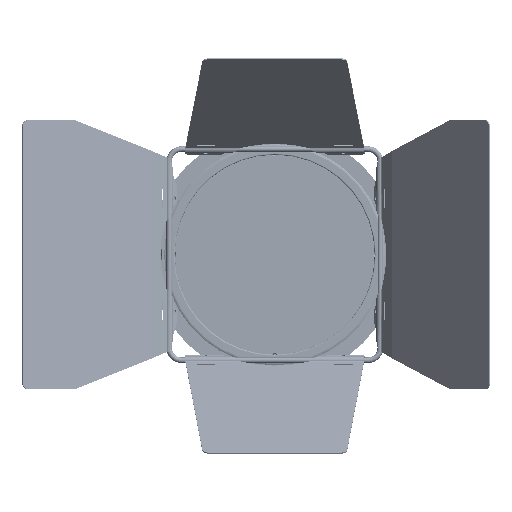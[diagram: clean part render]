
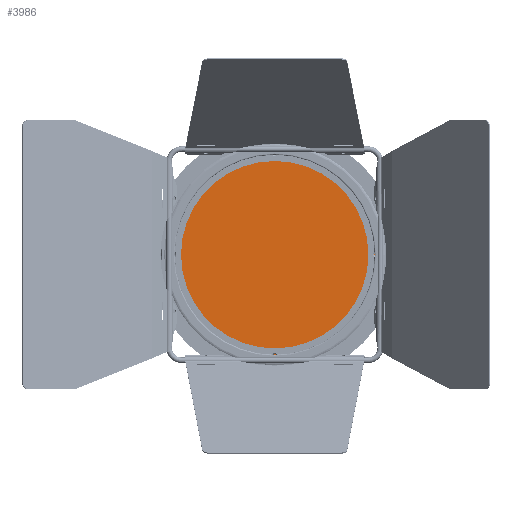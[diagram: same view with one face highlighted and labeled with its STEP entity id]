
A CAD part, front view. The second image highlights one B-rep face of the part: STEP entity #3986.
In plain terms, the highlighted planar face has unit normal (0, -1, 0).
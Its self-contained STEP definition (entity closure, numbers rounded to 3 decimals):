
#1378 = AXIS2_PLACEMENT_3D ( 'NONE', #175053, #143502, #142601 ) ;
#3986 = ADVANCED_FACE ( 'NONE', ( #60114, #89804, #164062, #23809, #178915 ), #162248, .F. ) ;
#4949 = VERTEX_POINT ( 'NONE', #120639 ) ;
#8247 = ORIENTED_EDGE ( 'NONE', *, *, #130365, .T. ) ;
#8302 = CARTESIAN_POINT ( 'NONE',  ( -81.5, -1., -1.6 ) ) ;
#9622 = CARTESIAN_POINT ( 'NONE',  ( -81.5, -1., 0. ) ) ;
#12334 = VERTEX_POINT ( 'NONE', #23528 ) ;
#12420 = EDGE_LOOP ( 'NONE', ( #116804, #32249 ) ) ;
#14918 = CIRCLE ( 'NONE', #118687, 1.6 ) ;
#16247 = CIRCLE ( 'NONE', #120026, 1.6 ) ;
#23528 = CARTESIAN_POINT ( 'NONE',  ( -1.6, -1., 81.5 ) ) ;
#23809 = FACE_BOUND ( 'NONE', #12420, .T. ) ;
#24142 = DIRECTION ( 'NONE',  ( 1., 0., 0. ) ) ;
#25601 = CIRCLE ( 'NONE', #147298, 1.6 ) ;
#25656 = ORIENTED_EDGE ( 'NONE', *, *, #31405, .T. ) ;
#28489 = ORIENTED_EDGE ( 'NONE', *, *, #177882, .T. ) ;
#28784 = CIRCLE ( 'NONE', #108832, 1.6 ) ;
#29921 = CARTESIAN_POINT ( 'NONE',  ( -1.6, -1., -81.5 ) ) ;
#30629 = DIRECTION ( 'NONE',  ( -1., 0., 0. ) ) ;
#31405 = EDGE_CURVE ( 'NONE', #59660, #52414, #90325, .T. ) ;
#32249 = ORIENTED_EDGE ( 'NONE', *, *, #170833, .T. ) ;
#35301 = EDGE_LOOP ( 'NONE', ( #168760, #92288 ) ) ;
#36523 = DIRECTION ( 'NONE',  ( 0., 1., 0. ) ) ;
#37163 = DIRECTION ( 'NONE',  ( -1., 0., 0. ) ) ;
#38107 = CARTESIAN_POINT ( 'NONE',  ( -85., -1., 0. ) ) ;
#39780 = CARTESIAN_POINT ( 'NONE',  ( -81.5, -1., 1.6 ) ) ;
#42021 = AXIS2_PLACEMENT_3D ( 'NONE', #163768, #36523, #118304 ) ;
#42293 = CARTESIAN_POINT ( 'NONE',  ( 81.5, -1., 0. ) ) ;
#44660 = CARTESIAN_POINT ( 'NONE',  ( 0., -1., 0. ) ) ;
#45359 = CARTESIAN_POINT ( 'NONE',  ( 1.6, -1., 81.5 ) ) ;
#45533 = VERTEX_POINT ( 'NONE', #29921 ) ;
#45559 = DIRECTION ( 'NONE',  ( 0., 1., 0. ) ) ;
#46089 = AXIS2_PLACEMENT_3D ( 'NONE', #44660, #45559, #173732 ) ;
#47649 = EDGE_CURVE ( 'NONE', #51268, #12334, #28784, .T. ) ;
#48203 = DIRECTION ( 'NONE',  ( 1., 0., 0. ) ) ;
#48872 = VERTEX_POINT ( 'NONE', #39780 ) ;
#50753 = CARTESIAN_POINT ( 'NONE',  ( 0., -1., 0. ) ) ;
#51268 = VERTEX_POINT ( 'NONE', #45359 ) ;
#52024 = DIRECTION ( 'NONE',  ( 0., 1., 0. ) ) ;
#52414 = VERTEX_POINT ( 'NONE', #166481 ) ;
#52756 = CIRCLE ( 'NONE', #70627, 1.6 ) ;
#54172 = DIRECTION ( 'NONE',  ( 0., 1., 0. ) ) ;
#59660 = VERTEX_POINT ( 'NONE', #128781 ) ;
#60114 = FACE_BOUND ( 'NONE', #183212, .T. ) ;
#62148 = CARTESIAN_POINT ( 'NONE',  ( 0., -1., 81.5 ) ) ;
#70627 = AXIS2_PLACEMENT_3D ( 'NONE', #178599, #94084, #147072 ) ;
#71051 = EDGE_CURVE ( 'NONE', #146432, #48872, #52756, .T. ) ;
#77710 = EDGE_CURVE ( 'NONE', #180027, #4949, #143376, .T. ) ;
#79079 = EDGE_CURVE ( 'NONE', #45533, #135364, #16247, .T. ) ;
#79804 = CARTESIAN_POINT ( 'NONE',  ( 1.6, -1., -81.5 ) ) ;
#83169 = DIRECTION ( 'NONE',  ( 0., 0., 1. ) ) ;
#85461 = DIRECTION ( 'NONE',  ( 0., 1., 0. ) ) ;
#88131 = EDGE_LOOP ( 'NONE', ( #25656, #150922 ) ) ;
#89804 = FACE_BOUND ( 'NONE', #129829, .T. ) ;
#90325 = CIRCLE ( 'NONE', #1378, 1.6 ) ;
#92288 = ORIENTED_EDGE ( 'NONE', *, *, #147387, .F. ) ;
#94084 = DIRECTION ( 'NONE',  ( 0., 1., 0. ) ) ;
#94744 = CARTESIAN_POINT ( 'NONE',  ( 0., -1., -81.5 ) ) ;
#95882 = EDGE_CURVE ( 'NONE', #52414, #59660, #14918, .T. ) ;
#97182 = ORIENTED_EDGE ( 'NONE', *, *, #71051, .T. ) ;
#98326 = CIRCLE ( 'NONE', #42021, 1.6 ) ;
#107813 = AXIS2_PLACEMENT_3D ( 'NONE', #144865, #85461, #30629 ) ;
#108832 = AXIS2_PLACEMENT_3D ( 'NONE', #62148, #118769, #48203 ) ;
#110431 = CARTESIAN_POINT ( 'NONE',  ( 0., -1., -81.5 ) ) ;
#115832 = ORIENTED_EDGE ( 'NONE', *, *, #47649, .T. ) ;
#116804 = ORIENTED_EDGE ( 'NONE', *, *, #79079, .T. ) ;
#118304 = DIRECTION ( 'NONE',  ( -1., 0., 0. ) ) ;
#118687 = AXIS2_PLACEMENT_3D ( 'NONE', #42293, #154679, #83169 ) ;
#118769 = DIRECTION ( 'NONE',  ( 0., 1., 0. ) ) ;
#120026 = AXIS2_PLACEMENT_3D ( 'NONE', #110431, #52024, #37163 ) ;
#120639 = CARTESIAN_POINT ( 'NONE',  ( 85., -1., 0. ) ) ;
#121329 = DIRECTION ( 'NONE',  ( 1., 0., 0. ) ) ;
#128781 = CARTESIAN_POINT ( 'NONE',  ( 81.5, -1., -1.6 ) ) ;
#129282 = AXIS2_PLACEMENT_3D ( 'NONE', #94744, #151387, #24142 ) ;
#129829 = EDGE_LOOP ( 'NONE', ( #115832, #28489 ) ) ;
#130365 = EDGE_CURVE ( 'NONE', #48872, #146432, #25601, .T. ) ;
#134303 = DIRECTION ( 'NONE',  ( 0., 1., 0. ) ) ;
#135364 = VERTEX_POINT ( 'NONE', #79804 ) ;
#142601 = DIRECTION ( 'NONE',  ( 0., 0., -1. ) ) ;
#143376 = CIRCLE ( 'NONE', #107813, 85. ) ;
#143502 = DIRECTION ( 'NONE',  ( 0., 1., 0. ) ) ;
#144865 = CARTESIAN_POINT ( 'NONE',  ( 0., -1., 0. ) ) ;
#146432 = VERTEX_POINT ( 'NONE', #8302 ) ;
#147072 = DIRECTION ( 'NONE',  ( 0., 0., -1. ) ) ;
#147298 = AXIS2_PLACEMENT_3D ( 'NONE', #9622, #54172, #164765 ) ;
#147387 = EDGE_CURVE ( 'NONE', #4949, #180027, #149893, .T. ) ;
#149893 = CIRCLE ( 'NONE', #46089, 85. ) ;
#150922 = ORIENTED_EDGE ( 'NONE', *, *, #95882, .T. ) ;
#151387 = DIRECTION ( 'NONE',  ( 0., 1., 0. ) ) ;
#154679 = DIRECTION ( 'NONE',  ( 0., 1., 0. ) ) ;
#162248 = PLANE ( 'NONE',  #181536 ) ;
#163768 = CARTESIAN_POINT ( 'NONE',  ( 0., -1., 81.5 ) ) ;
#164062 = FACE_BOUND ( 'NONE', #88131, .T. ) ;
#164765 = DIRECTION ( 'NONE',  ( 0., 0., 1. ) ) ;
#166481 = CARTESIAN_POINT ( 'NONE',  ( 81.5, -1., 1.6 ) ) ;
#168760 = ORIENTED_EDGE ( 'NONE', *, *, #77710, .F. ) ;
#170833 = EDGE_CURVE ( 'NONE', #135364, #45533, #176790, .T. ) ;
#173732 = DIRECTION ( 'NONE',  ( 1., 0., 0. ) ) ;
#175053 = CARTESIAN_POINT ( 'NONE',  ( 81.5, -1., 0. ) ) ;
#176790 = CIRCLE ( 'NONE', #129282, 1.6 ) ;
#177882 = EDGE_CURVE ( 'NONE', #12334, #51268, #98326, .T. ) ;
#178599 = CARTESIAN_POINT ( 'NONE',  ( -81.5, -1., 0. ) ) ;
#178915 = FACE_OUTER_BOUND ( 'NONE', #35301, .T. ) ;
#180027 = VERTEX_POINT ( 'NONE', #38107 ) ;
#181536 = AXIS2_PLACEMENT_3D ( 'NONE', #50753, #134303, #121329 ) ;
#183212 = EDGE_LOOP ( 'NONE', ( #8247, #97182 ) ) ;
